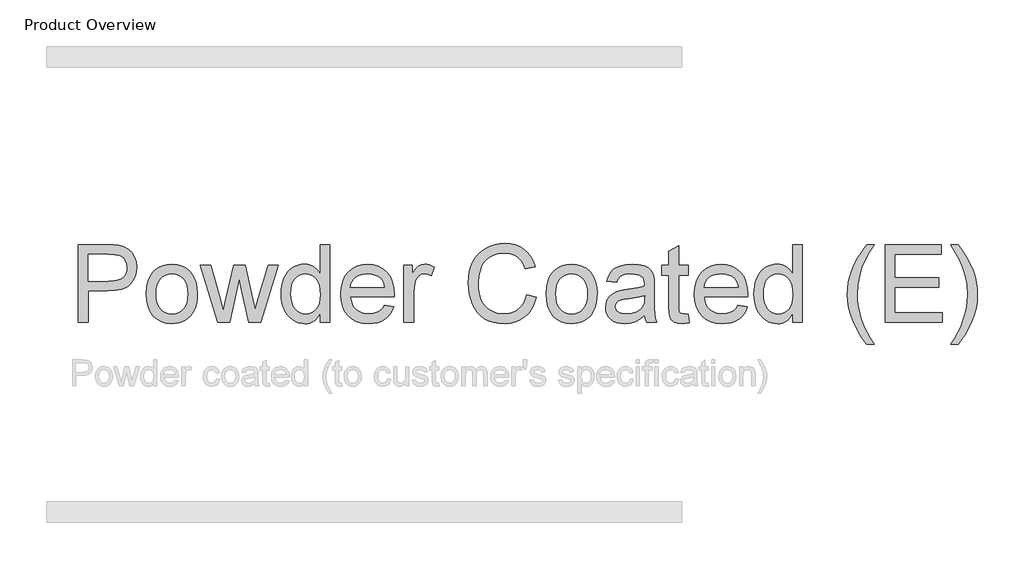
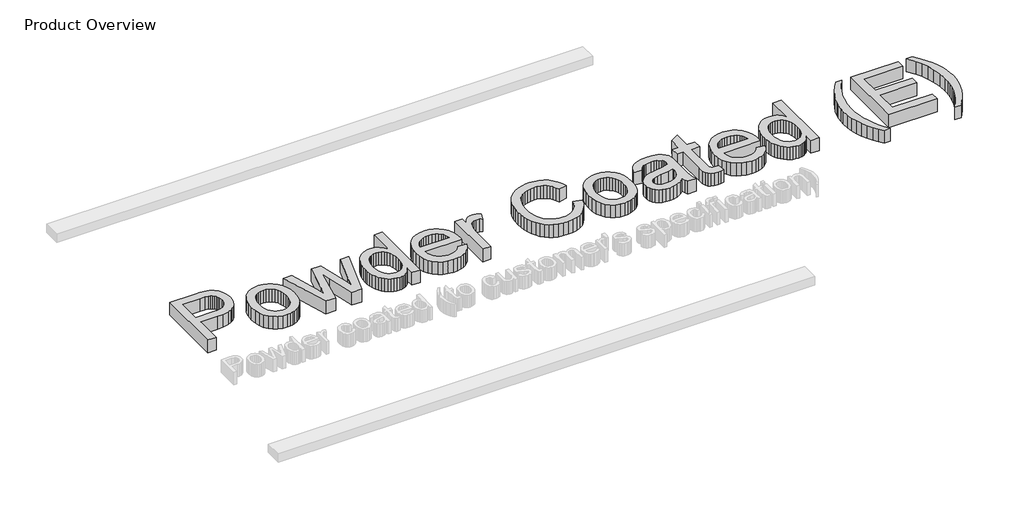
# One storey, part 5 of 12: 1 proxy.
"""IFC4 building model written with IfcOpenShell, lengths in millimetres."""

from ifc_helpers import new_model, si_unit, origin, origin_with_axes, place, context, project, spatial, polyline, outline, extrude, element, save

model = new_model("IFC4")

# Units and contexts
model_context = context("Model", 3, world=origin())
ifc_project = project(units=[si_unit("LENGTHUNIT", "METRE", prefix="MILLI")], contexts=[model_context])

# Site, building, storey
site = spatial("IfcSite", under=ifc_project)
building = spatial("IfcBuilding", under=site)
storey = spatial("IfcBuildingStorey", under=building, Name="Product Overview", Elevation=0.0)

# Proxy
placement = place(None, origin())
element("IfcBuildingElementProxy", 1, Name="750mm", ObjectType="750mm", at=placement, inside=storey, context=model_context, shape_type="SweptSolid", body=[
    extrude(outline(polyline([(-4836.3293405, -17353.8362158), (-4836.3293405, -16619.2907613), (-4564.102778, -16619.2907613), (-4500.7087794, -16621.039252), (-4454.3513575, -16626.2847243), (-4405.4160326, -16639.353572), (-4365.1334953, -16660.6268763), (-4332.6967499, -16691.0685489), (-4307.2988007, -16731.6425013), (-4290.8898874, -16779.5018319), (-4285.4202496, -16831.7996391), (-4289.1133759, -16876.890526), (-4300.1927549, -16918.3723486), (-4318.6583866, -16956.245107), (-4344.5102709, -16990.5088011), (-4360.7692736, -17005.7240332), (-4380.001271, -17018.9105677), (-4427.3842499, -17039.197544), (-4486.6592078, -17051.3697297), (-4557.8261445, -17055.4271249), (-4744.5111587, -17055.4271249), (-4744.5111587, -17353.8362158), (-4836.3293405, -17353.8362158)]), holes=[polyline([(-4744.5111587, -16963.6089431), (-4552.4461729, -16963.6089431), (-4508.2855727, -16961.5017876), (-4471.0292695, -16955.1803209), (-4440.6772631, -16944.6445432), (-4417.2295536, -16929.8944545), (-4399.7334376, -16911.3223442), (-4387.2362119, -16889.320502), (-4379.7378765, -16863.888928), (-4377.2384314, -16835.0276221), (-4383.1339836, -16793.7811732), (-4390.5034239, -16775.578936), (-4400.8206402, -16758.9906903), (-4413.5364272, -16744.5544332), (-4428.1015795, -16732.8081618), (-4444.516097, -16723.7518763), (-4462.7799797, -16717.3855766), (-4498.198126, -16712.6781015), (-4554.5981615, -16711.1089431), (-4744.5111587, -16711.1089431), (-4744.5111587, -16963.6089431)])]), origin_with_axes(), (0.0, 0.0, 1.0), 150.0),
    extrude(outline(polyline([(-4193.6020678, -17084.1203067), (-4188.6368023, -17014.259134), (-4173.741006, -16954.0594935), (-4162.5691587, -16927.5827479), (-4148.9146787, -16903.5213854), (-4132.777566, -16881.8754059), (-4114.1578206, -16862.6448096), (-4079.1655887, -16836.5183225), (-4040.541876, -16817.8565461), (-3998.2866825, -16806.6594802), (-3952.4000081, -16802.9271249), (-3901.7442131, -16807.4720801), (-3855.9416008, -16821.1069456), (-3814.9921712, -16843.8317214), (-3778.8959243, -16875.6464076), (-3749.4349757, -16915.4750098), (-3728.391441, -16962.2415337), (-3715.7653202, -17015.9459792), (-3711.5566132, -17076.5883465), (-3713.4171867, -17125.7366286), (-3718.9989072, -17169.3480234), (-3728.3017748, -17207.4225306), (-3741.3257894, -17239.9601505), (-3757.908431, -17268.0648979), (-3777.8871796, -17292.8407879), (-3801.2620354, -17314.2878205), (-3828.0329982, -17332.4059957), (-3857.1576985, -17346.8030238), (-3887.593767, -17357.0866153), (-3919.3412035, -17363.2567702), (-3952.4000081, -17365.3134886), (-4003.7955492, -17360.7853458), (-4050.0240759, -17347.2009175), (-4091.0855883, -17324.5602038), (-4126.9800862, -17292.8632045), (-4156.1272031, -17252.6479168), (-4176.9465724, -17204.452338), (-4189.4381939, -17148.276468), (-4193.6020678, -17084.1203067)]), holes=[polyline([(-4101.7838859, -17083.9409743), (-4099.127525, -17128.4770517), (-4091.1584421, -17167.0391189), (-4077.8766372, -17199.627176), (-4059.2821104, -17226.2412229), (-4036.6638131, -17246.9148846), (-4011.310697, -17261.6817858), (-3983.222762, -17270.5419265), (-3952.4000081, -17273.4953067), (-3921.73417, -17270.5251141), (-3893.7583178, -17261.6145361), (-3868.4724513, -17246.7635729), (-3845.8765706, -17225.9722243), (-3827.2820438, -17199.0947829), (-3814.0002389, -17165.9855411), (-3806.031156, -17126.6444989), (-3803.374795, -17081.0716562), (-3806.0479684, -17037.9478214), (-3814.0674886, -17000.3944989), (-3827.4333555, -16968.4116886), (-3846.1455692, -16941.9993905), (-3868.8255119, -16921.3257289), (-3894.094566, -16906.5588277), (-3921.9527314, -16897.698687), (-3952.4000081, -16894.7453067), (-3983.222762, -16897.6874787), (-4011.310697, -16906.5139946), (-4036.6638131, -16921.2248544), (-4059.2821104, -16941.8200582), (-4077.8766372, -16968.3556472), (-4091.1584421, -17000.8876629), (-4099.127525, -17039.4161053), (-4101.7838859, -17083.9409743)])]), origin_with_axes(), (0.0, 0.0, 1.0), 150.0),
    extrude(outline(polyline([(-3518.7742979, -17353.8362158), (-3682.8634314, -16814.4043976), (-3587.4586019, -16814.4043976), (-3494.3850933, -17129.1327357), (-3466.5885734, -17241.574142), (-3443.8133604, -17133.2573806), (-3369.7490848, -16814.4043976), (-3260.3563291, -16814.4043976), (-3186.6507183, -17132.3607187), (-3166.3861587, -17230.455534), (-3137.3343121, -17126.9807471), (-3044.0814712, -16814.4043976), (-2948.3179769, -16814.4043976), (-3113.6624371, -17353.8362158), (-3224.6691842, -17353.8362158), (-3295.1468121, -17037.4938863), (-3315.5907041, -16938.8610738), (-3406.512224, -17353.8362158), (-3518.7742979, -17353.8362158)])), origin_with_axes(), (0.0, 0.0, 1.0), 150.0),
    extrude(outline(polyline([(-2552.3520678, -17353.8362158), (-2552.3520678, -17267.2186732), (-2579.8235477, -17310.1351549), (-2595.7364949, -17326.9952013), (-2613.1009136, -17340.7897847), (-2631.9168039, -17351.5189051), (-2652.1841656, -17359.1825626), (-2673.9029988, -17363.7807571), (-2697.0733036, -17365.3134886), (-2727.3804769, -17363.0942503), (-2756.4323234, -17356.4365354), (-2784.2288433, -17345.340344), (-2810.7700365, -17329.8056761), (-2835.2264907, -17310.2976749), (-2856.7687936, -17287.2814839), (-2875.3969452, -17260.7571032), (-2891.1109456, -17230.7245326), (-2903.5857547, -17197.7553942), (-2912.4963327, -17162.4213099), (-2917.8426794, -17124.7222798), (-2919.624795, -17084.6583039), (-2917.9827829, -17045.3284699), (-2913.0567464, -17007.8592094), (-2904.8466856, -16972.2505225), (-2893.3526004, -16938.502409), (-2878.5800951, -16907.6011972), (-2860.5347737, -16880.5332151), (-2839.2166363, -16857.2984628), (-2814.6256828, -16837.8969403), (-2787.6305545, -16822.597646), (-2759.0998927, -16811.6695788), (-2729.0336973, -16805.1127384), (-2697.4319683, -16802.9271249), (-2674.320507, -16804.4906792), (-2652.5092055, -16809.1813419), (-2631.9980639, -16816.9991131), (-2612.787082, -16827.9439928), (-2579.1174264, -16856.7044243), (-2552.3520678, -16892.9519829), (-2552.3520678, -16619.2907613), (-2460.5338859, -16619.2907613), (-2460.5338859, -17353.8362158), (-2552.3520678, -17353.8362158)]), holes=[polyline([(-2827.8066132, -17084.2996391), (-2825.2175019, -17128.8245082), (-2817.4501679, -17167.3529506), (-2804.5046113, -17199.8849663), (-2786.380832, -17226.4205553), (-2764.7376546, -17247.0157591), (-2741.2339037, -17261.7266189), (-2715.8695793, -17270.5531348), (-2688.6446814, -17273.4953067), (-2661.2908883, -17270.6876341), (-2636.0778756, -17262.264616), (-2613.0056433, -17248.2262527), (-2592.0741913, -17228.572544), (-2574.6957623, -17203.146574), (-2562.2825987, -17171.7914271), (-2554.8347005, -17134.5071032), (-2552.3520678, -17091.2936022), (-2554.8795336, -17043.9162274), (-2562.461931, -17003.2862336), (-2575.0992601, -16969.4036208), (-2592.7915209, -16942.2683891), (-2614.1825121, -16921.4770406), (-2637.9160326, -16906.6260773), (-2663.9920824, -16897.7154994), (-2692.4106615, -16894.7453067), (-2720.1735566, -16897.5978125), (-2745.537881, -16906.1553298), (-2768.5036347, -16920.4178587), (-2789.0708178, -16940.3853991), (-2806.0177283, -16966.4950737), (-2818.1226644, -16999.1840052), (-2825.385626, -17038.4521937), (-2827.8066132, -17084.2996391)])]), origin_with_axes(), (0.0, 0.0, 1.0), 150.0),
    extrude(outline(polyline([(-1945.1326075, -17193.1543976), (-1855.1077496, -17204.6316704), (-1868.9107392, -17240.6886883), (-1887.544495, -17272.4641455), (-1911.0090169, -17299.958042), (-1939.304305, -17323.1703778), (-1972.1389441, -17341.6079887), (-2009.2215191, -17354.7777109), (-2050.55203, -17362.6795441), (-2096.1304769, -17365.3134886), (-2153.1021343, -17360.7685334), (-2203.864408, -17347.1336679), (-2248.4172977, -17324.4088921), (-2286.7608036, -17292.5942059), (-2317.5947657, -17252.575063), (-2339.6190244, -17205.2369172), (-2352.8335797, -17150.5797683), (-2357.2384314, -17088.6036164), (-2352.7887466, -17024.5259131), (-2339.4396921, -16968.0474197), (-2317.1912679, -16919.1681361), (-2286.043474, -16877.8880624), (-2247.8008426, -16845.0926523), (-2204.2679058, -16821.6673593), (-2155.4446636, -16807.6121835), (-2101.3311161, -16802.9271249), (-2048.9604551, -16807.6009752), (-2001.5998927, -16821.6225262), (-1959.2494288, -16844.9917778), (-1921.9090635, -16877.70873), (-1891.428162, -16918.8991375), (-1869.6560894, -16967.6887549), (-1856.5928459, -17024.0775821), (-1852.2384314, -17088.0656192), (-1852.7764286, -17112.8134886), (-2265.4202496, -17112.8134886), (-2260.1019235, -17149.4533367), (-2249.5269168, -17181.5426256), (-2233.6952296, -17209.0813552), (-2212.6068618, -17232.0695255), (-2187.4274739, -17250.1933048), (-2159.3227265, -17263.1388614), (-2128.2926195, -17270.9061954), (-2094.337153, -17273.4953067), (-2045.4690777, -17268.6981654), (-2004.312295, -17254.3067414), (-1986.6256384, -17243.2890079), (-1970.866805, -17229.4243728), (-1957.0357947, -17212.712836), (-1945.1326075, -17193.1543976)]), holes=[polyline([(-2265.4202496, -17020.9953067), (-1944.0566132, -17020.9953067), (-1948.7752966, -16995.0145273), (-1956.475381, -16972.4858962), (-1967.1568662, -16953.4094136), (-1980.8197524, -16937.7850795), (-2005.8590369, -16918.9551789), (-2034.3504697, -16905.5052499), (-2066.2940511, -16897.4352925), (-2101.6897808, -16894.7453067), (-2133.9752145, -16896.8916912), (-2163.5818707, -16903.3308447), (-2190.5097493, -16914.0627672), (-2214.7588504, -16929.0874587), (-2235.1074721, -16947.7100062), (-2250.3339126, -16969.2354967), (-2260.4381717, -16993.6639302), (-2265.4202496, -17020.9953067)])]), origin_with_axes(), (0.0, 0.0, 1.0), 150.0),
    extrude(outline(polyline([(-1760.4202496, -17353.8362158), (-1760.4202496, -16814.4043976), (-1680.0793405, -16814.4043976), (-1680.0793405, -16894.2073096), (-1650.3998305, -16847.9395539), (-1623.0516416, -16820.6810312), (-1595.6137865, -16807.3656015), (-1565.665278, -16802.9271249), (-1542.8900649, -16804.6980322), (-1519.9355195, -16810.0107542), (-1473.4884314, -16831.261642), (-1504.1542695, -16913.5752073), (-1536.434099, -16899.4527819), (-1568.7139286, -16894.7453067), (-1596.1293671, -16899.2734495), (-1620.6306544, -16912.8578778), (-1640.4244666, -16934.4674303), (-1653.7174797, -16963.0709459), (-1664.8809207, -17014.3600084), (-1668.6020678, -17070.311713), (-1668.6020678, -17353.8362158), (-1760.4202496, -17353.8362158)])), origin_with_axes(), (0.0, 0.0, 1.0), 150.0),
    extrude(outline(polyline([(-601.2157041, -17092.7282613), (-509.3975223, -17116.4001363), (-527.5661347, -17173.5006889), (-551.7647986, -17223.3943213), (-581.993514, -17266.0810334), (-618.2522808, -17301.5608252), (-659.7228952, -17329.4526154), (-705.587153, -17349.3753227), (-755.8450543, -17361.3289471), (-810.496599, -17365.3134886), (-866.4875325, -17362.2984628), (-916.99762, -17353.2533856), (-962.0268614, -17338.1782568), (-1001.5752567, -17317.0730766), (-1036.1864072, -17290.2516766), (-1066.4039144, -17258.0278884), (-1092.227778, -17220.4017121), (-1113.6579982, -17177.3731476), (-1130.4872218, -17130.8027686), (-1142.5080958, -17082.5511484), (-1149.7206202, -17032.618287), (-1152.124795, -16981.0041846), (-1149.4067886, -16925.624102), (-1141.2527691, -16873.8979168), (-1127.6627367, -16825.825629), (-1108.6366913, -16781.4072386), (-1084.6005474, -16741.3768874), (-1055.9802194, -16706.4687176), (-1022.7757072, -16676.6827291), (-984.9870109, -16652.0189218), (-943.8974779, -16632.6790447), (-900.7904555, -16618.8648469), (-855.6659438, -16610.5763281), (-808.5239428, -16607.8134886), (-756.0075742, -16611.388928), (-707.8512244, -16622.1152464), (-664.0548931, -16639.9924436), (-624.6185805, -16665.0205198), (-590.1923665, -16696.5381867), (-561.4263309, -16733.8841562), (-538.3204737, -16777.0584282), (-520.874795, -16826.0610028), (-612.6929769, -16847.9395539), (-627.1516505, -16811.8320987), (-644.5244754, -16780.9813241), (-664.8114516, -16755.3872301), (-688.0125791, -16735.0498167), (-714.2623572, -16719.5543777), (-743.6952851, -16708.4862069), (-776.3113629, -16701.8453045), (-812.1105905, -16699.6316704), (-853.300998, -16702.0862824), (-890.9720074, -16709.4501185), (-925.1236187, -16721.7231787), (-955.755832, -16738.905463), (-982.4819617, -16760.2236004), (-1004.9153224, -16784.9042201), (-1023.0559141, -16812.947322), (-1036.9037368, -16844.3529062), (-1054.4558941, -16911.557718), (-1060.3066132, -16980.8248522), (-1058.5749349, -17024.6716207), (-1053.3798998, -17065.6490709), (-1044.721508, -17103.757203), (-1032.5997595, -17138.996017), (-1016.8185095, -17170.6649956), (-997.1816132, -17198.0636217), (-973.6890706, -17221.1918954), (-946.3408817, -17240.0498167), (-916.4652269, -17254.6822186), (-885.3902869, -17265.1339342), (-853.1160615, -17271.4049636), (-819.6425507, -17273.4953067), (-779.7242823, -17270.6484051), (-743.0003721, -17262.1077002), (-709.47082, -17247.873192), (-679.135626, -17227.9448806), (-652.7121197, -17202.4124321), (-630.9176306, -17171.3655127), (-613.7521588, -17134.8041224), (-601.2157041, -17092.7282613)])), origin_with_axes(), (0.0, 0.0, 1.0), 150.0),
    extrude(outline(polyline([(-417.5793405, -17084.1203067), (-412.614075, -17014.259134), (-397.7182787, -16954.0594935), (-386.5464314, -16927.5827479), (-372.8919515, -16903.5213854), (-356.7548388, -16881.8754059), (-338.1350933, -16862.6448096), (-303.1428614, -16836.5183225), (-264.5191487, -16817.8565461), (-222.2639552, -16806.6594802), (-176.3772808, -16802.9271249), (-125.7214858, -16807.4720801), (-79.9188735, -16821.1069456), (-38.9694439, -16843.8317214), (-2.873197, -16875.6464076), (26.5877516, -16915.4750098), (47.6312863, -16962.2415337), (60.2574071, -17015.9459792), (64.4661141, -17076.5883465), (62.6055405, -17125.7366286), (57.02382, -17169.3480234), (47.7209525, -17207.4225306), (34.6969379, -17239.9601505), (18.1142963, -17268.0648979), (-1.8644523, -17292.8407879), (-25.2393081, -17314.2878205), (-52.0102709, -17332.4059957), (-81.1349713, -17346.8030238), (-111.5710397, -17357.0866153), (-143.3184762, -17363.2567702), (-176.3772808, -17365.3134886), (-227.7728219, -17360.7853458), (-274.0013487, -17347.2009175), (-315.062861, -17324.5602038), (-350.957359, -17292.8632045), (-380.1044759, -17252.6479168), (-400.9238451, -17204.452338), (-413.4154666, -17148.276468), (-417.5793405, -17084.1203067)]), holes=[polyline([(-325.7611587, -17083.9409743), (-323.1047977, -17128.4770517), (-315.1357148, -17167.0391189), (-301.8539099, -17199.627176), (-283.2593831, -17226.2412229), (-260.6410859, -17246.9148846), (-235.2879697, -17261.6817858), (-207.2000347, -17270.5419265), (-176.3772808, -17273.4953067), (-145.7114428, -17270.5251141), (-117.7355905, -17261.6145361), (-92.449724, -17246.7635729), (-69.8538433, -17225.9722243), (-51.2593165, -17199.0947829), (-37.9775117, -17165.9855411), (-30.0084287, -17126.6444989), (-27.3520678, -17081.0716562), (-30.0252411, -17037.9478214), (-38.0447613, -17000.3944989), (-51.4106282, -16968.4116886), (-70.1228419, -16941.9993905), (-92.8027846, -16921.3257289), (-118.0718387, -16906.5588277), (-145.9300041, -16897.698687), (-176.3772808, -16894.7453067), (-207.2000347, -16897.6874787), (-235.2879697, -16906.5139946), (-260.6410859, -16921.2248544), (-283.2593831, -16941.8200582), (-301.8539099, -16968.3556472), (-315.1357148, -17000.8876629), (-323.1047977, -17039.4161053), (-325.7611587, -17083.9409743)])]), origin_with_axes(), (0.0, 0.0, 1.0), 150.0),
    extrude(outline(polyline([(512.0797504, -17284.9725795), (468.2105654, -17322.5875475), (423.0412206, -17347.2009175), (375.5405548, -17360.7853458), (324.6774067, -17365.3134886), (283.7952267, -17362.5898779), (247.9455619, -17354.4190461), (217.1284121, -17340.800993), (191.3437774, -17321.7357187), (170.9839474, -17298.4337167), (156.4412117, -17272.1054807), (147.7155703, -17242.7510107), (144.8070231, -17210.3703067), (149.2006666, -17172.3070077), (162.381597, -17137.7406903), (182.7134063, -17108.1508465), (208.5596865, -17085.0169687), (238.9341094, -17067.532061), (272.850347, -17054.8891278), (352.2945942, -17041.080534), (446.1750984, -17026.5546107), (511.5417533, -17009.518034), (512.0797504, -16989.074142), (510.4993838, -16966.8145095), (505.7582838, -16948.0966917), (497.8564505, -16932.9206885), (486.7938839, -16921.2864999), (467.6725682, -16909.6747279), (444.3817746, -16901.380605), (416.9215029, -16896.4041313), (385.2917533, -16894.7453067), (330.5953754, -16899.1613667), (309.4341538, -16904.6814418), (292.3975771, -16912.4095468), (278.3984427, -16922.9509286), (266.349548, -16936.9108341), (256.250893, -16954.2892631), (248.1024777, -16975.0862158), (156.2842959, -16963.6089431), (172.2224617, -16913.3958749), (196.0064195, -16873.9427499), (211.3953799, -16857.8812931), (229.8554074, -16843.7700759), (275.9886638, -16821.3983607), (332.4111158, -16807.5449339), (397.1276908, -16802.9271249), (459.199113, -16807.0069367), (508.4034365, -16819.2463721), (545.5028239, -16837.6503582), (571.2594379, -16860.2238224), (588.3408477, -16888.132425), (599.4146226, -16922.5418266), (602.7771048, -16954.283659), (603.8979322, -17002.8827357), (603.8979322, -17117.1174658), (605.0635928, -17216.6245237), (608.5605743, -17276.6336235), (615.4648712, -17316.0643319), (626.8524777, -17353.8362158), (535.0342959, -17353.8362158), (520.3290402, -17321.9150511), (512.0797504, -17284.9725795)]), holes=[polyline([(512.0797504, -17101.3362158), (450.3894095, -17116.6243018), (363.9511993, -17129.4914005), (316.3160342, -17136.5301966), (284.9552831, -17144.3759886), (264.3993083, -17154.5531015), (249.178472, -17168.5858607), (239.7635217, -17185.3982719), (236.625205, -17203.9143408), (238.3344668, -17218.1824738), (243.4622522, -17231.2176966), (252.0085612, -17243.0200093), (263.9733939, -17253.5894118), (279.2446674, -17262.2982409), (297.7102991, -17268.518833), (344.2246368, -17273.4953067), (393.541043, -17268.0032524), (437.1188129, -17251.5270894), (472.447293, -17227.2499676), (497.01583, -17198.3550368), (507.9102724, -17168.5858607), (511.5417533, -17127.3394118), (512.0797504, -17101.3362158)])]), origin_with_axes(), (0.0, 0.0, 1.0), 150.0),
    extrude(outline(polyline([(925.2615686, -17277.2612868), (936.7388413, -17356.5262016), (900.3792, -17363.1166668), (868.0545374, -17365.3134886), (823.9836034, -17361.5026753), (791.1209436, -17350.0702357), (767.8973996, -17332.4508288), (752.7438129, -17310.0791136), (744.404857, -17271.6571498), (741.625205, -17205.8869971), (741.625205, -16906.2225795), (672.7615686, -16906.2225795), (672.7615686, -16814.4043976), (741.625205, -16814.4043976), (741.625205, -16683.3124232), (833.4433868, -16629.3333749), (833.4433868, -16814.4043976), (925.2615686, -16814.4043976), (925.2615686, -16906.2225795), (833.4433868, -16906.2225795), (833.4433868, -17203.1970113), (834.6538804, -17233.4145184), (838.2853612, -17250.5407613), (844.6292444, -17260.0229612), (853.976945, -17267.3083394), (867.2251251, -17271.9485649), (885.2704464, -17273.4953067), (925.2615686, -17277.2612868)])), origin_with_axes(), (0.0, 0.0, 1.0), 150.0),
    extrude(outline(polyline([(1394.7537561, -17193.1543976), (1484.7786141, -17204.6316704), (1470.9756244, -17240.6886883), (1452.3418687, -17272.4641455), (1428.8773467, -17299.958042), (1400.5820587, -17323.1703778), (1367.7474195, -17341.6079887), (1330.6648445, -17354.7777109), (1289.3343336, -17362.6795441), (1243.7558868, -17365.3134886), (1186.7842293, -17360.7685334), (1136.0219557, -17347.1336679), (1091.4690659, -17324.4088921), (1053.1255601, -17292.5942059), (1022.2915979, -17252.575063), (1000.2673392, -17205.2369172), (987.052784, -17150.5797683), (982.6479322, -17088.6036164), (987.0976171, -17024.5259131), (1000.4466716, -16968.0474197), (1022.6950958, -16919.1681361), (1053.8428896, -16877.8880624), (1092.085521, -16845.0926523), (1135.6184578, -16821.6673593), (1184.4417, -16807.6121835), (1238.5552476, -16802.9271249), (1290.9259085, -16807.6009752), (1338.2864709, -16821.6225262), (1380.6369348, -16844.9917778), (1417.9773001, -16877.70873), (1448.4582017, -16918.8991375), (1470.2302742, -16967.6887549), (1483.2935177, -17024.0775821), (1487.6479322, -17088.0656192), (1487.1099351, -17112.8134886), (1074.4661141, -17112.8134886), (1079.7844401, -17149.4533367), (1090.3594468, -17181.5426256), (1106.191134, -17209.0813552), (1127.2795018, -17232.0695255), (1152.4588897, -17250.1933048), (1180.5636371, -17263.1388614), (1211.5937441, -17270.9061954), (1245.5492106, -17273.4953067), (1294.4172859, -17268.6981654), (1335.5740686, -17254.3067414), (1353.2607252, -17243.2890079), (1369.0195587, -17229.4243728), (1382.850569, -17212.712836), (1394.7537561, -17193.1543976)]), holes=[polyline([(1074.4661141, -17020.9953067), (1395.8297504, -17020.9953067), (1391.111067, -16995.0145273), (1383.4109827, -16972.4858962), (1372.7294974, -16953.4094136), (1359.0666112, -16937.7850795), (1334.0273268, -16918.9551789), (1305.5358939, -16905.5052499), (1273.5923126, -16897.4352925), (1238.1965828, -16894.7453067), (1205.9111491, -16896.8916912), (1176.304493, -16903.3308447), (1149.3766143, -16914.0627672), (1125.1275132, -16929.0874587), (1104.7788915, -16947.7100062), (1089.5524511, -16969.2354967), (1079.4481919, -16993.6639302), (1074.4661141, -17020.9953067)])]), origin_with_axes(), (0.0, 0.0, 1.0), 150.0),
    extrude(outline(polyline([(1912.3070231, -17353.8362158), (1912.3070231, -17267.2186732), (1884.8355432, -17310.1351549), (1868.922596, -17326.9952013), (1851.5581773, -17340.7897847), (1832.742287, -17351.5189051), (1812.4749253, -17359.1825626), (1790.7560921, -17363.7807571), (1767.5857874, -17365.3134886), (1737.2786141, -17363.0942503), (1708.2267675, -17356.4365354), (1680.4302476, -17345.340344), (1653.8890544, -17329.8056761), (1629.4326002, -17310.2976749), (1607.8902973, -17287.2814839), (1589.2621457, -17260.7571032), (1573.5481453, -17230.7245326), (1561.0733362, -17197.7553942), (1552.1627582, -17162.4213099), (1546.8164115, -17124.7222798), (1545.0342959, -17084.6583039), (1546.676308, -17045.3284699), (1551.6023445, -17007.8592094), (1559.8124053, -16972.2505225), (1571.3064905, -16938.502409), (1586.0789958, -16907.6011972), (1604.1243172, -16880.5332151), (1625.4424546, -16857.2984628), (1650.0334081, -16837.8969403), (1677.0285364, -16822.597646), (1705.5591982, -16811.6695788), (1735.6253936, -16805.1127384), (1767.2271226, -16802.9271249), (1790.3385839, -16804.4906792), (1812.1498854, -16809.1813419), (1832.6610271, -16816.9991131), (1851.8720089, -16827.9439928), (1885.5416645, -16856.7044243), (1912.3070231, -16892.9519829), (1912.3070231, -16619.2907613), (2004.125205, -16619.2907613), (2004.125205, -17353.8362158), (1912.3070231, -17353.8362158)]), holes=[polyline([(1636.8524777, -17084.2996391), (1639.441589, -17128.8245082), (1647.208923, -17167.3529506), (1660.1544796, -17199.8849663), (1678.2782589, -17226.4205553), (1699.9214363, -17247.0157591), (1723.4251872, -17261.7266189), (1748.7895116, -17270.5531348), (1776.0144095, -17273.4953067), (1803.3682026, -17270.6876341), (1828.5812153, -17262.264616), (1851.6534476, -17248.2262527), (1872.5848996, -17228.572544), (1889.9633286, -17203.146574), (1902.3764923, -17171.7914271), (1909.8243904, -17134.5071032), (1912.3070231, -17091.2936022), (1909.7795573, -17043.9162274), (1902.1971599, -17003.2862336), (1889.5598308, -16969.4036208), (1871.86757, -16942.2683891), (1850.4765788, -16921.4770406), (1826.7430583, -16906.6260773), (1800.6670085, -16897.7154994), (1772.2484294, -16894.7453067), (1744.4855343, -16897.5978125), (1719.1212099, -16906.1553298), (1696.1554562, -16920.4178587), (1675.5882731, -16940.3853991), (1658.6413626, -16966.4950737), (1646.5364266, -16999.1840052), (1639.2734649, -17038.4521937), (1636.8524777, -17084.2996391)])]), origin_with_axes(), (0.0, 0.0, 1.0), 150.0),
    extrude(outline(polyline([(2612.4206595, -17560.4271249), (2575.3548969, -17512.4669198), (2541.2705352, -17460.5838188), (2510.1675745, -17404.7778218), (2482.0460146, -17345.0489289), (2458.7440127, -17282.7981743), (2442.0997256, -17219.4265922), (2432.1131533, -17154.9341828), (2428.7842959, -17089.3209459), (2431.2725327, -17031.6543754), (2438.7372433, -16975.2207151), (2451.1784276, -16920.0199649), (2468.5960856, -16866.0521249), (2495.0700292, -16804.1600351), (2527.8654393, -16742.4024445), (2566.9823161, -16680.7793533), (2612.4206595, -16619.2907613), (2681.2842959, -16619.2907613), (2627.2604145, -16706.5808003), (2595.3840828, -16764.7293266), (2566.0632376, -16833.7722954), (2543.7363555, -16905.6845823), (2526.3859472, -16997.5475972), (2520.6024777, -17089.8589431), (2523.1131311, -17148.7191948), (2530.6450913, -17207.5682382), (2543.1983584, -17266.4060733), (2560.7729322, -17325.2327002), (2583.3688129, -17384.0481188), (2610.9860004, -17442.8523291), (2643.6244947, -17501.6453311), (2681.2842959, -17560.4271249), (2612.4206595, -17560.4271249)])), origin_with_axes(), (0.0, 0.0, 1.0), 150.0),
    extrude(outline(polyline([(2784.5797504, -17353.8362158), (2784.5797504, -16619.2907613), (3312.5342959, -16619.2907613), (3312.5342959, -16711.1089431), (2876.3979322, -16711.1089431), (2876.3979322, -16929.1771249), (3289.5797504, -16929.1771249), (3289.5797504, -17020.9953067), (2876.3979322, -17020.9953067), (2876.3979322, -17262.018034), (3324.0115686, -17262.018034), (3324.0115686, -17353.8362158), (2784.5797504, -17353.8362158)])), origin_with_axes(), (0.0, 0.0, 1.0), 150.0),
    extrude(outline(polyline([(3473.2161141, -17560.4271249), (3404.3524777, -17560.4271249), (3442.0122788, -17501.6453311), (3474.6507731, -17442.8523291), (3502.2679606, -17384.0481188), (3524.8638413, -17325.2327002), (3542.4384152, -17266.4060733), (3554.9916822, -17207.5682382), (3562.5236425, -17148.7191948), (3565.0342959, -17089.8589431), (3559.2508264, -16998.2200937), (3541.900418, -16907.2985738), (3519.9770338, -16835.2517876), (3490.7906879, -16766.1639857), (3458.779857, -16707.3877961), (3404.3524777, -16619.2907613), (3473.2161141, -16619.2907613), (3518.6544575, -16680.7793533), (3557.7713342, -16742.4024445), (3590.5667444, -16804.1600351), (3617.0406879, -16866.0521249), (3634.4583459, -16920.0199649), (3646.8995303, -16975.2207151), (3654.3642408, -17031.6543754), (3656.8524777, -17089.3209459), (3653.5068079, -17154.9341828), (3643.4697984, -17219.4265922), (3626.7414492, -17282.7981743), (3603.3217604, -17345.0489289), (3575.1161385, -17404.7778218), (3544.0299901, -17460.5838188), (3510.0633153, -17512.4669198), (3473.2161141, -17560.4271249)])), origin_with_axes(), (0.0, 0.0, 1.0), 150.0),
])

save(model, "model.ifc")
